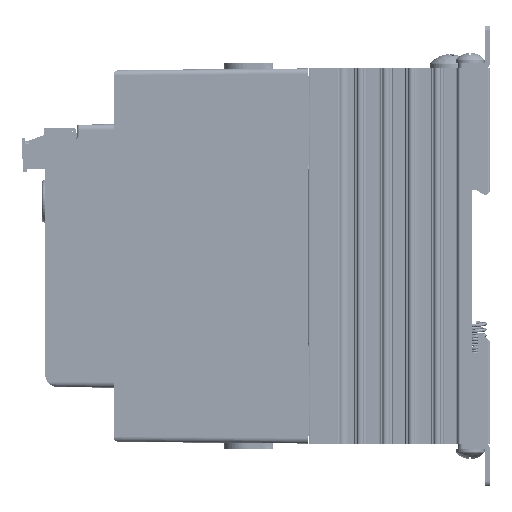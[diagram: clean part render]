
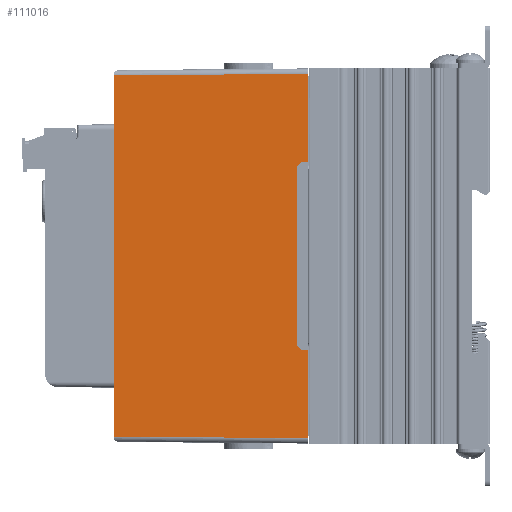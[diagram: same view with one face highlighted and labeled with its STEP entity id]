
A CAD part, left-side view. The second image highlights one B-rep face of the part: STEP entity #111016.
In plain terms, the highlighted planar face has unit normal (-1, 0.009, 0) as drawn and (-1, 0, 0.009) by its records, which use the part's own axes.
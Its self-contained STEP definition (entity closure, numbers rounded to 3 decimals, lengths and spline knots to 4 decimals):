
#5618=PLANE('',#119483);
#11026=FACE_OUTER_BOUND('',#17239,.T.);
#17239=EDGE_LOOP('',(#96009,#96010,#96011,#96012,#96013,#96014,#96015,#96016,
#96017,#96018));
#29981=LINE('',#196971,#42137);
#30776=LINE('',#198941,#42932);
#30779=LINE('',#198946,#42935);
#30781=LINE('',#198951,#42937);
#30787=LINE('',#198962,#42943);
#30791=LINE('',#198970,#42947);
#30799=LINE('',#198990,#42955);
#30800=LINE('',#198992,#42956);
#30801=LINE('',#198994,#42957);
#30802=LINE('',#198995,#42958);
#42137=VECTOR('',#141725,0.3937);
#42932=VECTOR('',#143578,0.3937);
#42935=VECTOR('',#143583,0.3937);
#42937=VECTOR('',#143587,0.3937);
#42943=VECTOR('',#143597,0.3937);
#42947=VECTOR('',#143605,0.3937);
#42955=VECTOR('',#143625,0.3937);
#42956=VECTOR('',#143628,0.3937);
#42957=VECTOR('',#143629,0.3937);
#42958=VECTOR('',#143630,0.3937);
#53417=VERTEX_POINT('',#196968);
#53418=VERTEX_POINT('',#196970);
#53961=VERTEX_POINT('',#198938);
#53962=VERTEX_POINT('',#198940);
#53963=VERTEX_POINT('',#198944);
#53964=VERTEX_POINT('',#198948);
#53965=VERTEX_POINT('',#198950);
#53968=VERTEX_POINT('',#198960);
#53976=VERTEX_POINT('',#198988);
#53977=VERTEX_POINT('',#198993);
#67631=EDGE_CURVE('',#53418,#53417,#29981,.T.);
#68585=EDGE_CURVE('',#53962,#53961,#30776,.T.);
#68588=EDGE_CURVE('',#53961,#53963,#30779,.T.);
#68590=EDGE_CURVE('',#53965,#53964,#30781,.T.);
#68596=EDGE_CURVE('',#53963,#53968,#30787,.T.);
#68600=EDGE_CURVE('',#53968,#53965,#30791,.T.);
#68610=EDGE_CURVE('',#53964,#53976,#30799,.T.);
#68611=EDGE_CURVE('',#53418,#53976,#30800,.T.);
#68612=EDGE_CURVE('',#53977,#53417,#30801,.T.);
#68613=EDGE_CURVE('',#53977,#53962,#30802,.T.);
#96009=ORIENTED_EDGE('',*,*,#68585,.T.);
#96010=ORIENTED_EDGE('',*,*,#68588,.T.);
#96011=ORIENTED_EDGE('',*,*,#68596,.T.);
#96012=ORIENTED_EDGE('',*,*,#68600,.T.);
#96013=ORIENTED_EDGE('',*,*,#68590,.T.);
#96014=ORIENTED_EDGE('',*,*,#68610,.T.);
#96015=ORIENTED_EDGE('',*,*,#68611,.F.);
#96016=ORIENTED_EDGE('',*,*,#67631,.T.);
#96017=ORIENTED_EDGE('',*,*,#68612,.F.);
#96018=ORIENTED_EDGE('',*,*,#68613,.T.);
#111016=ADVANCED_FACE('',(#11026),#5618,.T.);
#119483=AXIS2_PLACEMENT_3D('',#198991,#143626,#143627);
#141725=DIRECTION('',(0.,1.,0.));
#143578=DIRECTION('',(0.009,-0.009,1.));
#143583=DIRECTION('',(0.006,-0.71,0.704));
#143587=DIRECTION('',(-0.009,-0.009,-1.));
#143597=DIRECTION('',(0.,-1.,0.));
#143605=DIRECTION('',(-0.006,-0.71,-0.704));
#143625=DIRECTION('',(0.,-1.,0.));
#143626=DIRECTION('center_axis',(-1.,0.,
0.009));
#143627=DIRECTION('ref_axis',(0.,-1.,0.));
#143628=DIRECTION('',(-0.009,-0.009,-1.));
#143629=DIRECTION('',(0.009,-0.009,1.));
#143630=DIRECTION('',(0.,-1.,0.));
#196968=CARTESIAN_POINT('',(0.0158,3.4342,1.811));
#196970=CARTESIAN_POINT('',(0.0158,0.0658,1.811));
#196971=CARTESIAN_POINT('',(0.0158,3.5,1.811));
#198938=CARTESIAN_POINT('',(0.0005,2.6295,0.0521));
#198940=CARTESIAN_POINT('',(0.,2.63,0.));
#198941=CARTESIAN_POINT('',(0.0001,2.6299,0.0115));
#198944=CARTESIAN_POINT('',(0.0009,2.5762,0.105));
#198946=CARTESIAN_POINT('',(0.0061,1.9795,0.6965));
#198948=CARTESIAN_POINT('',(0.,0.87,0.));
#198950=CARTESIAN_POINT('',(0.0005,0.8705,0.0521));
#198951=CARTESIAN_POINT('',(0.0002,0.8702,0.0223));
#198960=CARTESIAN_POINT('',(0.0009,0.9238,0.105));
#198962=CARTESIAN_POINT('',(0.0009,1.2881,0.105));
#198970=CARTESIAN_POINT('',(-0.0013,0.6646,-0.152));
#198988=CARTESIAN_POINT('',(0.,0.05,0.));
#198990=CARTESIAN_POINT('',(0.,3.5,0.));
#198991=CARTESIAN_POINT('Origin',(0.,0.,0.));
#198992=CARTESIAN_POINT('',(0.0001,0.0501,0.0118));
#198993=CARTESIAN_POINT('',(0.,3.45,0.));
#198994=CARTESIAN_POINT('',(0.0001,3.4499,0.0148));
#198995=CARTESIAN_POINT('',(0.,3.5,0.));
